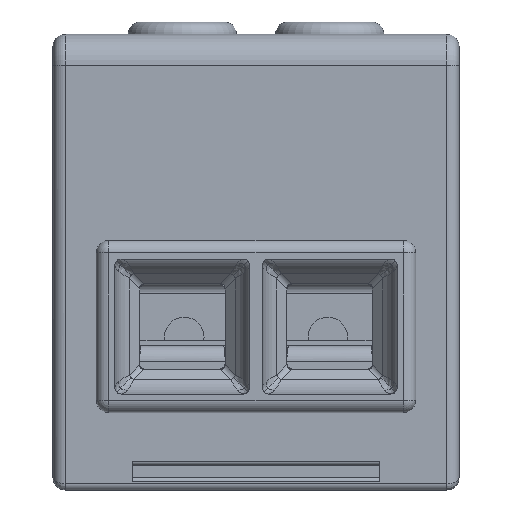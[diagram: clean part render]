
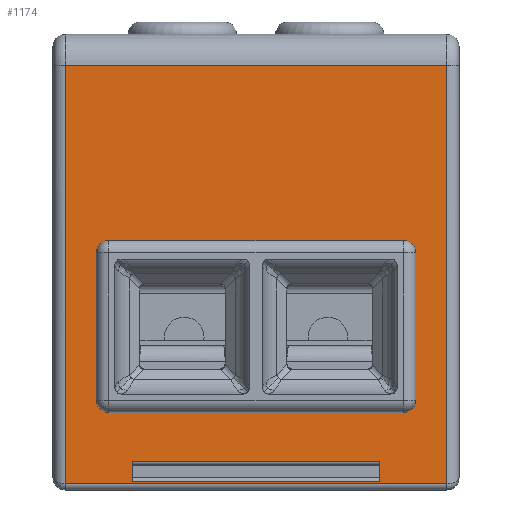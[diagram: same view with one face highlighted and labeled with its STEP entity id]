
A CAD part, front view. The second image highlights one B-rep face of the part: STEP entity #1174.
In plain terms, the highlighted planar face has unit normal (0, -1, 0).
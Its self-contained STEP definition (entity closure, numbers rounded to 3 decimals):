
#648=FACE_BOUND('',#3099,.T.);
#649=FACE_BOUND('',#3100,.T.);
#650=FACE_BOUND('',#3101,.T.);
#1174=ADVANCED_FACE('',(#648,#649,#650),#1725,.T.);
#1725=PLANE('',#14428);
#3099=EDGE_LOOP('',(#6493,#6494,#6495,#6496));
#3100=EDGE_LOOP('',(#6497,#6498,#6499,#6500,#6501,#6502,#6503,#6504));
#3101=EDGE_LOOP('',(#6505,#6506,#6507,#6508));
#3596=CIRCLE('',#14380,1.);
#3602=CIRCLE('',#14389,1.);
#3606=CIRCLE('',#14395,1.);
#3610=CIRCLE('',#14401,1.);
#6493=ORIENTED_EDGE('',*,*,#10212,.T.);
#6494=ORIENTED_EDGE('',*,*,#10182,.T.);
#6495=ORIENTED_EDGE('',*,*,#10176,.T.);
#6496=ORIENTED_EDGE('',*,*,#10193,.T.);
#6497=ORIENTED_EDGE('',*,*,#10215,.T.);
#6498=ORIENTED_EDGE('',*,*,#10263,.T.);
#6499=ORIENTED_EDGE('',*,*,#10227,.T.);
#6500=ORIENTED_EDGE('',*,*,#10264,.T.);
#6501=ORIENTED_EDGE('',*,*,#10243,.T.);
#6502=ORIENTED_EDGE('',*,*,#10246,.F.);
#6503=ORIENTED_EDGE('',*,*,#10235,.T.);
#6504=ORIENTED_EDGE('',*,*,#10245,.F.);
#6505=ORIENTED_EDGE('',*,*,#10283,.T.);
#6506=ORIENTED_EDGE('',*,*,#10285,.F.);
#6507=ORIENTED_EDGE('',*,*,#10279,.T.);
#6508=ORIENTED_EDGE('',*,*,#10286,.T.);
#8479=VERTEX_POINT('',#22087);
#8480=VERTEX_POINT('',#22088);
#8485=VERTEX_POINT('',#22100);
#8491=VERTEX_POINT('',#22119);
#8503=VERTEX_POINT('',#22198);
#8504=VERTEX_POINT('',#22200);
#8511=VERTEX_POINT('',#22221);
#8512=VERTEX_POINT('',#22223);
#8516=VERTEX_POINT('',#22236);
#8517=VERTEX_POINT('',#22238);
#8519=VERTEX_POINT('',#22249);
#8520=VERTEX_POINT('',#22251);
#8551=VERTEX_POINT('',#22329);
#8552=VERTEX_POINT('',#22331);
#8555=VERTEX_POINT('',#22338);
#8556=VERTEX_POINT('',#22340);
#10176=EDGE_CURVE('',#8479,#8480,#11805,.T.);
#10182=EDGE_CURVE('',#8485,#8479,#11808,.T.);
#10193=EDGE_CURVE('',#8480,#8491,#11813,.T.);
#10212=EDGE_CURVE('',#8491,#8485,#11823,.T.);
#10215=EDGE_CURVE('',#8504,#8503,#3596,.T.);
#10227=EDGE_CURVE('',#8512,#8511,#3602,.T.);
#10235=EDGE_CURVE('',#8517,#8516,#3606,.T.);
#10243=EDGE_CURVE('',#8520,#8519,#3610,.T.);
#10245=EDGE_CURVE('',#8504,#8516,#11840,.T.);
#10246=EDGE_CURVE('',#8517,#8519,#11841,.T.);
#10263=EDGE_CURVE('',#8503,#8512,#11850,.T.);
#10264=EDGE_CURVE('',#8511,#8520,#11851,.T.);
#10279=EDGE_CURVE('',#8552,#8551,#11865,.T.);
#10283=EDGE_CURVE('',#8556,#8555,#11867,.T.);
#10285=EDGE_CURVE('',#8552,#8555,#11868,.T.);
#10286=EDGE_CURVE('',#8551,#8556,#11869,.T.);
#11805=LINE('',#22086,#13178);
#11808=LINE('',#22099,#13181);
#11813=LINE('',#22121,#13186);
#11823=LINE('',#22154,#13196);
#11840=LINE('',#22254,#13213);
#11841=LINE('',#22256,#13214);
#11850=LINE('',#22291,#13223);
#11851=LINE('',#22293,#13224);
#11865=LINE('',#22330,#13238);
#11867=LINE('',#22339,#13240);
#11868=LINE('',#22343,#13241);
#11869=LINE('',#22344,#13242);
#13178=VECTOR('',#17269,1.);
#13181=VECTOR('',#17280,1.);
#13186=VECTOR('',#17303,1.);
#13196=VECTOR('',#17343,1.);
#13213=VECTOR('',#17414,1.);
#13214=VECTOR('',#17417,1.);
#13223=VECTOR('',#17446,1.);
#13224=VECTOR('',#17449,1.);
#13238=VECTOR('',#17479,1.);
#13240=VECTOR('',#17487,1.);
#13241=VECTOR('',#17492,1.);
#13242=VECTOR('',#17493,1.);
#14380=AXIS2_PLACEMENT_3D('',#22199,#17353,#17354);
#14389=AXIS2_PLACEMENT_3D('',#22222,#17377,#17378);
#14395=AXIS2_PLACEMENT_3D('',#22237,#17393,#17394);
#14401=AXIS2_PLACEMENT_3D('',#22250,#17409,#17410);
#14428=AXIS2_PLACEMENT_3D('',#22345,#17494,#17495);
#17269=DIRECTION('',(1.,0.,0.));
#17280=DIRECTION('',(0.,0.,-1.));
#17303=DIRECTION('',(0.,0.,1.));
#17343=DIRECTION('',(-1.,0.,0.));
#17353=DIRECTION('',(0.,1.,0.));
#17354=DIRECTION('',(1.,0.,0.));
#17377=DIRECTION('',(0.,1.,0.));
#17378=DIRECTION('',(0.,0.,-1.));
#17393=DIRECTION('',(0.,1.,0.));
#17394=DIRECTION('',(0.,0.,1.));
#17409=DIRECTION('',(0.,1.,0.));
#17410=DIRECTION('',(-1.,0.,0.));
#17414=DIRECTION('',(0.,0.,1.));
#17417=DIRECTION('',(-1.,0.,0.));
#17446=DIRECTION('',(-1.,0.,0.));
#17449=DIRECTION('',(0.,0.,1.));
#17479=DIRECTION('',(-1.,0.,0.));
#17487=DIRECTION('',(1.,0.,0.));
#17492=DIRECTION('',(0.,0.,1.));
#17493=DIRECTION('',(0.,0.,1.));
#17494=DIRECTION('',(0.,-1.,0.));
#17495=DIRECTION('',(-1.,0.,0.));
#22086=CARTESIAN_POINT('',(-31.8,51.125,-17.175));
#22087=CARTESIAN_POINT('',(-31.8,51.125,-17.175));
#22088=CARTESIAN_POINT('',(-1.,51.125,-17.175));
#22099=CARTESIAN_POINT('',(-31.8,51.125,16.625));
#22100=CARTESIAN_POINT('',(-31.8,51.125,16.625));
#22119=CARTESIAN_POINT('',(-1.,51.125,16.625));
#22121=CARTESIAN_POINT('',(-1.,51.125,-17.175));
#22154=CARTESIAN_POINT('',(-1.,51.125,16.625));
#22198=CARTESIAN_POINT('',(-4.5,51.125,-11.425));
#22199=CARTESIAN_POINT('',(-4.5,51.125,-10.425));
#22200=CARTESIAN_POINT('',(-3.5,51.125,-10.425));
#22221=CARTESIAN_POINT('',(-29.3,51.125,-10.425));
#22222=CARTESIAN_POINT('',(-28.3,51.125,-10.425));
#22223=CARTESIAN_POINT('',(-28.3,51.125,-11.425));
#22236=CARTESIAN_POINT('',(-3.5,51.125,1.475));
#22237=CARTESIAN_POINT('',(-4.5,51.125,1.475));
#22238=CARTESIAN_POINT('',(-4.5,51.125,2.475));
#22249=CARTESIAN_POINT('',(-28.3,51.125,2.475));
#22250=CARTESIAN_POINT('',(-28.3,51.125,1.475));
#22251=CARTESIAN_POINT('',(-29.3,51.125,1.475));
#22254=CARTESIAN_POINT('',(-3.5,51.125,-10.425));
#22256=CARTESIAN_POINT('',(-4.5,51.125,2.475));
#22291=CARTESIAN_POINT('',(-4.5,51.125,-11.425));
#22293=CARTESIAN_POINT('',(-29.3,51.125,-10.425));
#22329=CARTESIAN_POINT('',(-26.4,51.125,-16.975));
#22330=CARTESIAN_POINT('',(-6.4,51.125,-16.975));
#22331=CARTESIAN_POINT('',(-6.4,51.125,-16.975));
#22338=CARTESIAN_POINT('',(-6.4,51.125,-15.375));
#22339=CARTESIAN_POINT('',(-26.4,51.125,-15.375));
#22340=CARTESIAN_POINT('',(-26.4,51.125,-15.375));
#22343=CARTESIAN_POINT('',(-6.4,51.125,-16.975));
#22344=CARTESIAN_POINT('',(-26.4,51.125,-16.975));
#22345=CARTESIAN_POINT('',(-36.081,51.125,-21.355));
